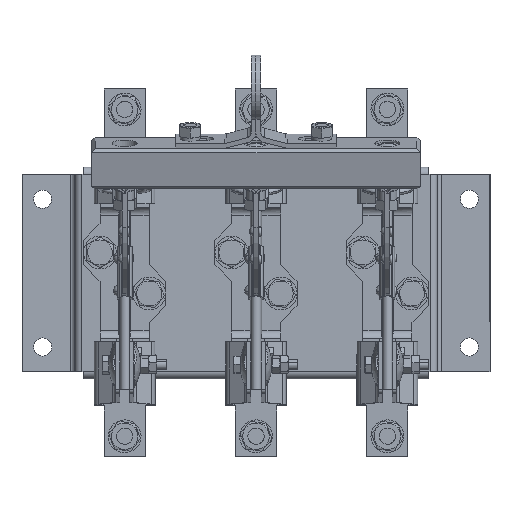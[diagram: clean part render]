
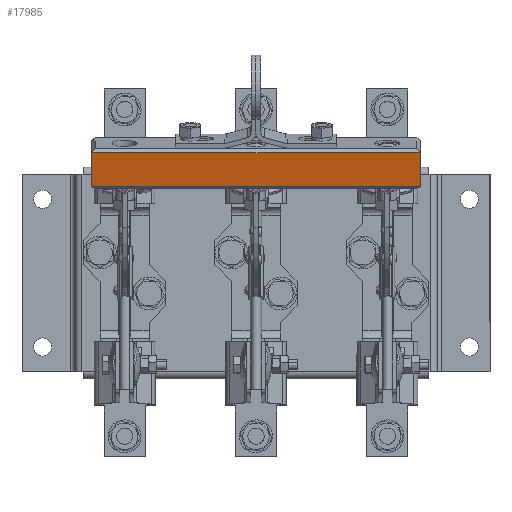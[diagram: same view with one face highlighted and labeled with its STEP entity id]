
A CAD part, top view. The second image highlights one B-rep face of the part: STEP entity #17985.
In plain terms, the highlighted planar face has unit normal (0, -0.259, 0.966).
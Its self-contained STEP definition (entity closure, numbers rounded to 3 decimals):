
#3442 = DIRECTION ( 'NONE',  ( -1., 0., 0. ) ) ;
#14160 = CARTESIAN_POINT ( 'NONE',  ( -100., 72.866, 150.234 ) ) ;
#17985 = ADVANCED_FACE ( 'NONE', ( #62103 ), #47512, .F. ) ;
#21833 = CARTESIAN_POINT ( 'NONE',  ( 100., 52.581, 144.799 ) ) ;
#22066 = CARTESIAN_POINT ( 'NONE',  ( -100., 52.581, 144.799 ) ) ;
#27518 = ORIENTED_EDGE ( 'NONE', *, *, #49500, .F. ) ;
#27701 = EDGE_LOOP ( 'NONE', ( #27518, #32208, #41963, #58523 ) ) ;
#30517 = LINE ( 'NONE', #21833, #53609 ) ;
#32208 = ORIENTED_EDGE ( 'NONE', *, *, #63477, .T. ) ;
#33089 = CARTESIAN_POINT ( 'NONE',  ( 100., 74.797, 150.752 ) ) ;
#36582 = VECTOR ( 'NONE', #91372, 1000. ) ;
#37394 = LINE ( 'NONE', #92434, #76564 ) ;
#41963 = ORIENTED_EDGE ( 'NONE', *, *, #67193, .T. ) ;
#43367 = CARTESIAN_POINT ( 'NONE',  ( 100., 52.581, 144.799 ) ) ;
#43991 = CARTESIAN_POINT ( 'NONE',  ( 100., 72.866, 150.234 ) ) ;
#44183 = VERTEX_POINT ( 'NONE', #14160 ) ;
#44733 = VERTEX_POINT ( 'NONE', #43367 ) ;
#47512 = PLANE ( 'NONE',  #52855 ) ;
#49500 = EDGE_CURVE ( 'NONE', #65914, #44733, #58488, .T. ) ;
#51511 = VECTOR ( 'NONE', #69597, 1000. ) ;
#52429 = EDGE_CURVE ( 'NONE', #65067, #44733, #30517, .T. ) ;
#52855 = AXIS2_PLACEMENT_3D ( 'NONE', #84806, #85774, #3442 ) ;
#53609 = VECTOR ( 'NONE', #73054, 1000. ) ;
#56721 = DIRECTION ( 'NONE',  ( -1., 0., 0. ) ) ;
#58488 = LINE ( 'NONE', #33089, #36582 ) ;
#58523 = ORIENTED_EDGE ( 'NONE', *, *, #52429, .T. ) ;
#62103 = FACE_OUTER_BOUND ( 'NONE', #27701, .T. ) ;
#63477 = EDGE_CURVE ( 'NONE', #65914, #44183, #37394, .T. ) ;
#65067 = VERTEX_POINT ( 'NONE', #22066 ) ;
#65914 = VERTEX_POINT ( 'NONE', #43991 ) ;
#67193 = EDGE_CURVE ( 'NONE', #44183, #65067, #71062, .T. ) ;
#69597 = DIRECTION ( 'NONE',  ( 0., -0.966, -0.259 ) ) ;
#71062 = LINE ( 'NONE', #76974, #51511 ) ;
#73054 = DIRECTION ( 'NONE',  ( 1., 0., 0. ) ) ;
#76564 = VECTOR ( 'NONE', #56721, 1000. ) ;
#76974 = CARTESIAN_POINT ( 'NONE',  ( -100., 74.797, 150.752 ) ) ;
#84806 = CARTESIAN_POINT ( 'NONE',  ( -100., 74.797, 150.752 ) ) ;
#85774 = DIRECTION ( 'NONE',  ( 0., 0.259, -0.966 ) ) ;
#91372 = DIRECTION ( 'NONE',  ( 0., -0.966, -0.259 ) ) ;
#92434 = CARTESIAN_POINT ( 'NONE',  ( -100., 72.866, 150.234 ) ) ;
